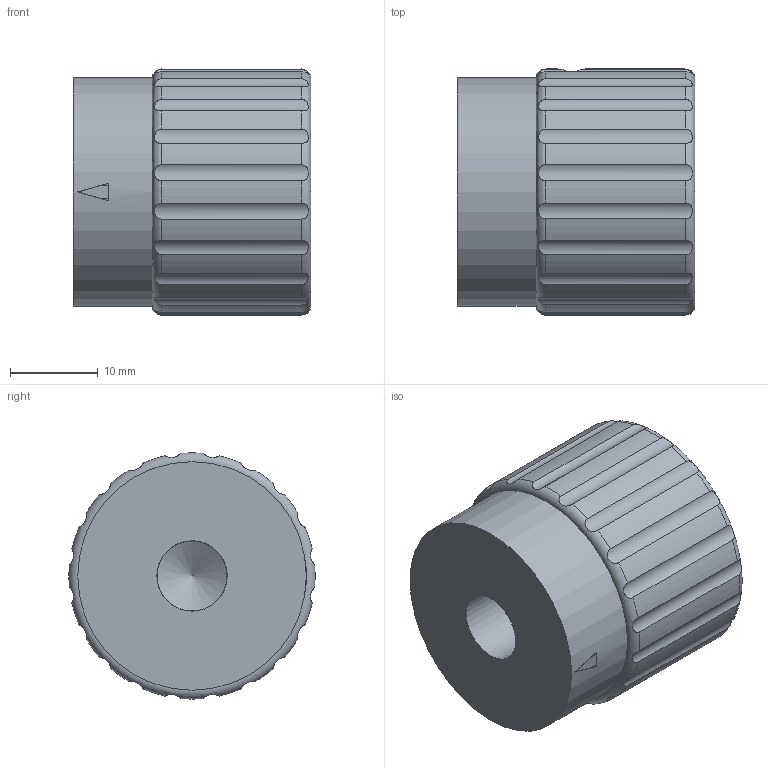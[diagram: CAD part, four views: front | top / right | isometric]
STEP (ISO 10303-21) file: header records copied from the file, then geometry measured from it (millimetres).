
FILE_DESCRIPTION( ( 'STEP AP203' ), '1' );
FILE_NAME( 'C:/Temp/Ganter_Step_05_03_2020/data/1_4/gn_436_1/gn_436_1_a/Stainless Steel-Control knob GN 436.1-28-B8-A-MT.stp', '2020-03-05T10:48:43', ( 'License CC BY-ND 4.0' ), ( 'CADENAS' ), ' ', 'PARTsolutions', ' ' );
FILE_SCHEMA( ( 'CONFIG_CONTROL_DESIGN' ) );
Length unit declared in the file: millimetre
Products named in the file (1): _Stainless Steel-Control knob GN 436.1-28-B8-A-MT
Bounding box: 27 x 27.99 x 27.99 mm (x, y, z)
Volume: 14506.4 mm3; surface area: 4127.4 mm2
Topology: 1 solids, 1 shells, 69 faces, 188 edges, 125 vertices
Faces by surface type: cylinder 46, plane 18, cone 3, torus 2
Full cylindrical faces by diameter (mm): 3.242 x2, 7.96 x1, 8 x1, 26 x1
Entity records: 2820 total; most frequent: CARTESIAN_POINT 1147, ORIENTED_EDGE 342, DIRECTION 320, EDGE_CURVE 171, AXIS2_PLACEMENT_3D 124, VERTEX_POINT 119, EDGE_LOOP 83, FACE_OUTER_BOUND 76
